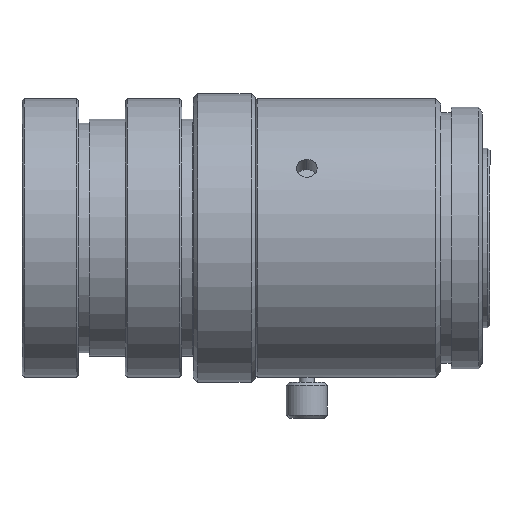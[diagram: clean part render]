
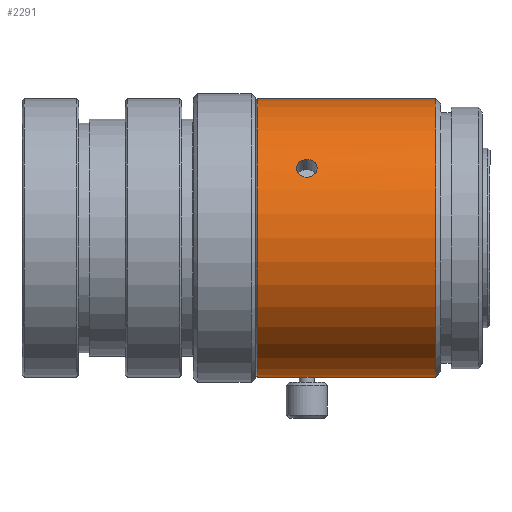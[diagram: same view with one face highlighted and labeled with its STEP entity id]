
A CAD part, top view. The second image highlights one B-rep face of the part: STEP entity #2291.
In plain terms, the highlighted cylindrical face has radius 13.5 mm (diameter 27 mm), a partial arc.
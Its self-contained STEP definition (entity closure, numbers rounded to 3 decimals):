
#12 = CARTESIAN_POINT ( 'NONE',  ( -31.526, 6.863, 11.626 ) ) ;
#66 = ORIENTED_EDGE ( 'NONE', *, *, #9401, .F. ) ;
#68 = CARTESIAN_POINT ( 'NONE',  ( -30.262, 5.865, 12.159 ) ) ;
#200 = CARTESIAN_POINT ( 'NONE',  ( -18.026, 0., 0. ) ) ;
#233 = VERTEX_POINT ( 'NONE', #6771 ) ;
#263 = CARTESIAN_POINT ( 'NONE',  ( -30.526, 7.597, 11.159 ) ) ;
#306 = DIRECTION ( 'NONE',  ( -1., 0., 0. ) ) ;
#351 = EDGE_CURVE ( 'NONE', #7108, #2947, #4845, .T. ) ;
#416 = CARTESIAN_POINT ( 'NONE',  ( -31.526, -13.5, 0.131 ) ) ;
#427 = EDGE_LOOP ( 'NONE', ( #7575, #2269, #1235, #9391, #9676, #66 ) ) ;
#456 = CARTESIAN_POINT ( 'NONE',  ( -31.526, -13.5, 0. ) ) ;
#532 = CARTESIAN_POINT ( 'NONE',  ( -31.325, 6.211, 11.987 ) ) ;
#712 = DIRECTION ( 'NONE',  ( 0., -1., 0. ) ) ;
#732 = CARTESIAN_POINT ( 'NONE',  ( -31.141, -13.477, 0.799 ) ) ;
#827 = CARTESIAN_POINT ( 'NONE',  ( -31.526, 6.637, 11.757 ) ) ;
#1226 = LINE ( 'NONE', #1908, #1683 ) ;
#1235 = ORIENTED_EDGE ( 'NONE', *, *, #5074, .F. ) ;
#1340 = FACE_OUTER_BOUND ( 'NONE', #427, .T. ) ;
#1348 = VECTOR ( 'NONE', #7480, 1000. ) ;
#1377 = CARTESIAN_POINT ( 'NONE',  ( -31.4, 6.31, 11.935 ) ) ;
#1478 = CARTESIAN_POINT ( 'NONE',  ( -30.395, 7.597, 11.159 ) ) ;
#1479 = CARTESIAN_POINT ( 'NONE',  ( -30.657, 7.597, 11.159 ) ) ;
#1540 = CARTESIAN_POINT ( 'NONE',  ( -30.526, 7.597, 11.159 ) ) ;
#1638 = CARTESIAN_POINT ( 'NONE',  ( -30.526, 5.865, 12.159 ) ) ;
#1659 = EDGE_LOOP ( 'NONE', ( #5380, #3456 ) ) ;
#1683 = VECTOR ( 'NONE', #5077, 1000. ) ;
#1728 = DIRECTION ( 'NONE',  ( -1., 0., 0. ) ) ;
#1908 = CARTESIAN_POINT ( 'NONE',  ( -60.941, -13.5, 0. ) ) ;
#2080 = CARTESIAN_POINT ( 'NONE',  ( -30.395, -13.463, 1. ) ) ;
#2112 = CARTESIAN_POINT ( 'NONE',  ( -30.788, 5.889, 12.148 ) ) ;
#2269 = ORIENTED_EDGE ( 'NONE', *, *, #3034, .T. ) ;
#2291 = ADVANCED_FACE ( 'NONE', ( #8383, #1340 ), #6889, .T. ) ;
#2392 = CARTESIAN_POINT ( 'NONE',  ( -30.264, 7.576, 11.174 ) ) ;
#2491 = CARTESIAN_POINT ( 'NONE',  ( -29.526, 6.636, 11.757 ) ) ;
#2597 = CARTESIAN_POINT ( 'NONE',  ( -35.326, -13.5, 0. ) ) ;
#2813 = B_SPLINE_CURVE_WITH_KNOTS ( 'NONE', 3,
 ( #456, #416, #4316, #3119, #3071, #732, #4416, #3594, #8247, #2080, #8397, #6759, #3884, #5195, #9900, #4371 ),
 .UNSPECIFIED., .F., .F.,
 ( 4, 2, 2, 2, 2, 2, 2, 4 ),
 ( 0.003, 0.004, 0.004, 0.004, 0.005, 0.005, 0.005, 0.006 ),
 .UNSPECIFIED. ) ;
#2947 = VERTEX_POINT ( 'NONE', #263 ) ;
#3034 = EDGE_CURVE ( 'NONE', #6801, #233, #7180, .T. ) ;
#3071 = CARTESIAN_POINT ( 'NONE',  ( -31.326, -13.486, 0.614 ) ) ;
#3109 = CARTESIAN_POINT ( 'NONE',  ( -31.03, 7.493, 11.23 ) ) ;
#3119 = CARTESIAN_POINT ( 'NONE',  ( -31.4, -13.491, 0.503 ) ) ;
#3219 = CARTESIAN_POINT ( 'NONE',  ( -31.5, 6.975, 11.559 ) ) ;
#3266 = CARTESIAN_POINT ( 'NONE',  ( -31.5, 6.522, 11.821 ) ) ;
#3369 = EDGE_CURVE ( 'NONE', #2947, #7108, #9193, .T. ) ;
#3449 = DIRECTION ( 'NONE',  ( 0., -1., 0. ) ) ;
#3456 = ORIENTED_EDGE ( 'NONE', *, *, #3369, .T. ) ;
#3594 = CARTESIAN_POINT ( 'NONE',  ( -30.789, -13.465, 0.974 ) ) ;
#3687 = VERTEX_POINT ( 'NONE', #9954 ) ;
#3815 = CARTESIAN_POINT ( 'NONE',  ( -29.726, 6.211, 11.987 ) ) ;
#3872 = CARTESIAN_POINT ( 'NONE',  ( -29.552, 6.976, 11.558 ) ) ;
#3884 = CARTESIAN_POINT ( 'NONE',  ( -29.912, -13.477, 0.8 ) ) ;
#4316 = CARTESIAN_POINT ( 'NONE',  ( -31.5, -13.498, 0.262 ) ) ;
#4371 = CARTESIAN_POINT ( 'NONE',  ( -29.526, -13.5, 0. ) ) ;
#4416 = CARTESIAN_POINT ( 'NONE',  ( -31.031, -13.472, 0.873 ) ) ;
#4445 = CARTESIAN_POINT ( 'NONE',  ( -31.141, 6.046, 12.071 ) ) ;
#4640 = CARTESIAN_POINT ( 'NONE',  ( -29.652, 6.31, 11.935 ) ) ;
#4641 = CARTESIAN_POINT ( 'NONE',  ( -30.788, 7.576, 11.174 ) ) ;
#4845 = B_SPLINE_CURVE_WITH_KNOTS ( 'NONE', 3,
 ( #9236, #6040, #2112, #6789, #4445, #532, #1377, #3266, #827, #12, #3219, #7087, #8628, #8574, #3109, #4641, #1479, #1540 ),
 .UNSPECIFIED., .F., .F.,
 ( 4, 2, 2, 2, 2, 2, 2, 2, 4 ),
 ( 0., 0., 0.001, 0.001, 0.002, 0.002, 0.002, 0.003, 0.003 ),
 .UNSPECIFIED. ) ;
#5004 = AXIS2_PLACEMENT_3D ( 'NONE', #200, #306, #3449 ) ;
#5074 = EDGE_CURVE ( 'NONE', #7667, #233, #7672, .T. ) ;
#5077 = DIRECTION ( 'NONE',  ( -1., 0., 0. ) ) ;
#5195 = CARTESIAN_POINT ( 'NONE',  ( -29.635, -13.491, 0.523 ) ) ;
#5262 = VERTEX_POINT ( 'NONE', #9599 ) ;
#5380 = ORIENTED_EDGE ( 'NONE', *, *, #351, .T. ) ;
#5679 = CARTESIAN_POINT ( 'NONE',  ( -60.941, 13.5, 0. ) ) ;
#5912 = LINE ( 'NONE', #7528, #1348 ) ;
#6028 = VECTOR ( 'NONE', #1728, 1000. ) ;
#6031 = CARTESIAN_POINT ( 'NONE',  ( -35.326, 0., 0. ) ) ;
#6040 = CARTESIAN_POINT ( 'NONE',  ( -30.658, 5.865, 12.159 ) ) ;
#6195 = CARTESIAN_POINT ( 'NONE',  ( -30.526, 7.597, 11.159 ) ) ;
#6238 = CARTESIAN_POINT ( 'NONE',  ( -31.526, -13.5, 0. ) ) ;
#6575 = AXIS2_PLACEMENT_3D ( 'NONE', #8532, #6940, #6746 ) ;
#6746 = DIRECTION ( 'NONE',  ( 0., -1., 0. ) ) ;
#6759 = CARTESIAN_POINT ( 'NONE',  ( -30.023, -13.472, 0.874 ) ) ;
#6771 = CARTESIAN_POINT ( 'NONE',  ( -35.326, 13.5, 0. ) ) ;
#6789 = CARTESIAN_POINT ( 'NONE',  ( -31.03, 5.979, 12.104 ) ) ;
#6798 = CARTESIAN_POINT ( 'NONE',  ( -30.526, 5.865, 12.159 ) ) ;
#6801 = VERTEX_POINT ( 'NONE', #9117 ) ;
#6889 = CYLINDRICAL_SURFACE ( 'NONE', #6575, 13.5 ) ;
#6940 = DIRECTION ( 'NONE',  ( -1., 0., 0. ) ) ;
#6982 = CARTESIAN_POINT ( 'NONE',  ( -30.003, 5.964, 12.113 ) ) ;
#7087 = CARTESIAN_POINT ( 'NONE',  ( -31.4, 7.182, 11.432 ) ) ;
#7108 = VERTEX_POINT ( 'NONE', #6798 ) ;
#7180 = LINE ( 'NONE', #5679, #6028 ) ;
#7197 = CARTESIAN_POINT ( 'NONE',  ( -29.526, 6.865, 11.625 ) ) ;
#7480 = DIRECTION ( 'NONE',  ( -1., 0., 0. ) ) ;
#7528 = CARTESIAN_POINT ( 'NONE',  ( -60.941, -13.5, 0. ) ) ;
#7575 = ORIENTED_EDGE ( 'NONE', *, *, #9081, .T. ) ;
#7667 = VERTEX_POINT ( 'NONE', #2597 ) ;
#7672 = CIRCLE ( 'NONE', #8006, 13.5 ) ;
#7962 = CARTESIAN_POINT ( 'NONE',  ( -30.023, 7.493, 11.23 ) ) ;
#8006 = AXIS2_PLACEMENT_3D ( 'NONE', #6031, #9177, #712 ) ;
#8017 = CARTESIAN_POINT ( 'NONE',  ( -29.727, 7.276, 11.372 ) ) ;
#8247 = CARTESIAN_POINT ( 'NONE',  ( -30.659, -13.463, 1. ) ) ;
#8383 = FACE_BOUND ( 'NONE', #1659, .T. ) ;
#8397 = CARTESIAN_POINT ( 'NONE',  ( -30.265, -13.465, 0.974 ) ) ;
#8532 = CARTESIAN_POINT ( 'NONE',  ( -60.941, 0., 0. ) ) ;
#8574 = CARTESIAN_POINT ( 'NONE',  ( -31.14, 7.431, 11.271 ) ) ;
#8625 = CARTESIAN_POINT ( 'NONE',  ( -29.912, 7.431, 11.271 ) ) ;
#8628 = CARTESIAN_POINT ( 'NONE',  ( -31.327, 7.275, 11.373 ) ) ;
#8672 = CARTESIAN_POINT ( 'NONE',  ( -29.653, 7.183, 11.431 ) ) ;
#9081 = EDGE_CURVE ( 'NONE', #5262, #6801, #9938, .T. ) ;
#9117 = CARTESIAN_POINT ( 'NONE',  ( -18.026, 13.5, 0. ) ) ;
#9148 = EDGE_CURVE ( 'NONE', #9590, #7667, #5912, .T. ) ;
#9177 = DIRECTION ( 'NONE',  ( -1., 0., 0. ) ) ;
#9193 = B_SPLINE_CURVE_WITH_KNOTS ( 'NONE', 3,
 ( #6195, #1478, #2392, #7962, #8625, #8017, #8672, #3872, #7197, #2491, #9550, #4640, #3815, #6982, #68, #1638 ),
 .UNSPECIFIED., .F., .F.,
 ( 4, 2, 2, 2, 2, 2, 2, 4 ),
 ( 0.003, 0.004, 0.004, 0.004, 0.005, 0.005, 0.005, 0.006 ),
 .UNSPECIFIED. ) ;
#9195 = EDGE_CURVE ( 'NONE', #9590, #3687, #2813, .T. ) ;
#9236 = CARTESIAN_POINT ( 'NONE',  ( -30.526, 5.865, 12.159 ) ) ;
#9391 = ORIENTED_EDGE ( 'NONE', *, *, #9148, .F. ) ;
#9401 = EDGE_CURVE ( 'NONE', #5262, #3687, #1226, .T. ) ;
#9550 = CARTESIAN_POINT ( 'NONE',  ( -29.552, 6.523, 11.82 ) ) ;
#9590 = VERTEX_POINT ( 'NONE', #6238 ) ;
#9599 = CARTESIAN_POINT ( 'NONE',  ( -18.026, -13.5, 0. ) ) ;
#9676 = ORIENTED_EDGE ( 'NONE', *, *, #9195, .T. ) ;
#9900 = CARTESIAN_POINT ( 'NONE',  ( -29.526, -13.5, 0.264 ) ) ;
#9938 = CIRCLE ( 'NONE', #5004, 13.5 ) ;
#9954 = CARTESIAN_POINT ( 'NONE',  ( -29.526, -13.5, 0. ) ) ;
